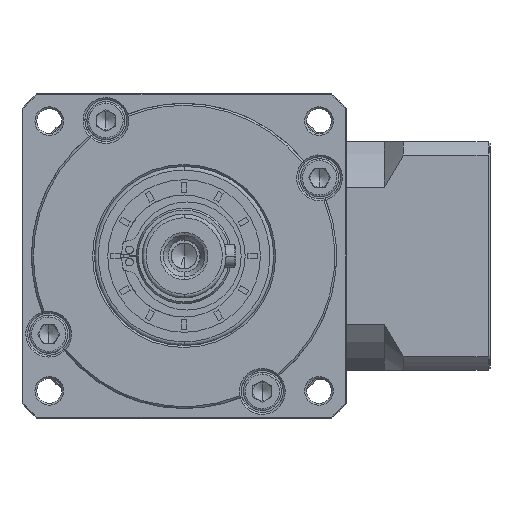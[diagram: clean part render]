
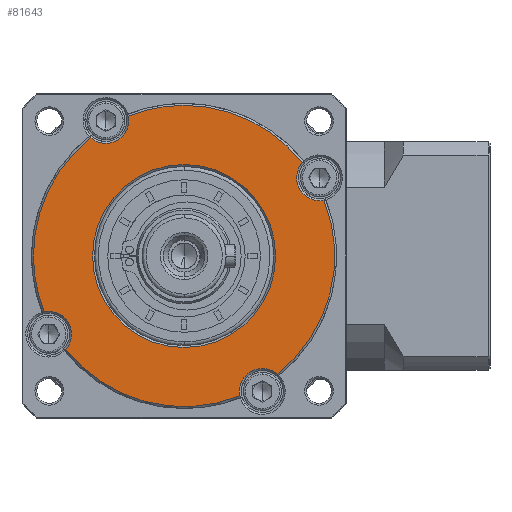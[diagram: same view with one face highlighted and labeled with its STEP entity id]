
A CAD part, left-side view. The second image highlights one B-rep face of the part: STEP entity #81643.
In plain terms, the highlighted planar face has unit normal (-1, 0, 0).
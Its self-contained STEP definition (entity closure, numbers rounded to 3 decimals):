
#1622 = ORIENTED_EDGE ( 'NONE', *, *, #16186, .T. ) ;
#1936 = EDGE_CURVE ( 'NONE', #135620, #119873, #136927, .T. ) ;
#3463 = CARTESIAN_POINT ( 'NONE',  ( -104.86, -5.555, -122.89 ) ) ;
#3695 = CIRCLE ( 'NONE', #173337, 24. ) ;
#3858 = AXIS2_PLACEMENT_3D ( 'NONE', #148018, #68094, #161396 ) ;
#4726 = CIRCLE ( 'NONE', #7853, 24. ) ;
#5567 = FACE_OUTER_BOUND ( 'NONE', #127482, .T. ) ;
#6462 = DIRECTION ( 'NONE',  ( 1., 0., 0. ) ) ;
#7062 = DIRECTION ( 'NONE',  ( 0., 0., -1. ) ) ;
#7853 = AXIS2_PLACEMENT_3D ( 'NONE', #63233, #156524, #76593 ) ;
#10627 = VERTEX_POINT ( 'NONE', #43774 ) ;
#12923 = DIRECTION ( 'NONE',  ( 0., 0., -1. ) ) ;
#15073 = VERTEX_POINT ( 'NONE', #122110 ) ;
#15132 = CIRCLE ( 'NONE', #157861, 39.5 ) ;
#16186 = EDGE_CURVE ( 'NONE', #140579, #125607, #76600, .T. ) ;
#16875 = DIRECTION ( 'NONE',  ( 0., 0., 1. ) ) ;
#18670 = VERTEX_POINT ( 'NONE', #166544 ) ;
#24618 = CARTESIAN_POINT ( 'NONE',  ( -104.86, -41.062, -108.39 ) ) ;
#26761 = ORIENTED_EDGE ( 'NONE', *, *, #69207, .F. ) ;
#30324 = ORIENTED_EDGE ( 'NONE', *, *, #85570, .F. ) ;
#31662 = AXIS2_PLACEMENT_3D ( 'NONE', #125056, #45001, #138546 ) ;
#32438 = ORIENTED_EDGE ( 'NONE', *, *, #168923, .F. ) ;
#35240 = VERTEX_POINT ( 'NONE', #83821 ) ;
#36890 = DIRECTION ( 'NONE',  ( 1., 0., 0. ) ) ;
#42344 = CARTESIAN_POINT ( 'NONE',  ( -104.86, -5.555, -122.89 ) ) ;
#43599 = EDGE_CURVE ( 'NONE', #150577, #18670, #52632, .T. ) ;
#43774 = CARTESIAN_POINT ( 'NONE',  ( -104.86, 33.945, -122.89 ) ) ;
#45001 = DIRECTION ( 'NONE',  ( 1., 0., 0. ) ) ;
#45139 = AXIS2_PLACEMENT_3D ( 'NONE', #42344, #135902, #119442 ) ;
#46078 = DIRECTION ( 'NONE',  ( 1., 0., 0. ) ) ;
#46151 = ORIENTED_EDGE ( 'NONE', *, *, #121931, .T. ) ;
#49233 = VERTEX_POINT ( 'NONE', #142100 ) ;
#49242 = CARTESIAN_POINT ( 'NONE',  ( -104.86, 14.945, -93.383 ) ) ;
#51792 = CARTESIAN_POINT ( 'NONE',  ( -104.86, 29.952, -143.39 ) ) ;
#52632 = CIRCLE ( 'NONE', #84363, 6. ) ;
#54839 = CARTESIAN_POINT ( 'NONE',  ( -104.86, 9.064, -86.194 ) ) ;
#55614 = VERTEX_POINT ( 'NONE', #104949 ) ;
#63233 = CARTESIAN_POINT ( 'NONE',  ( -104.86, -5.555, -122.89 ) ) ;
#64144 = CARTESIAN_POINT ( 'NONE',  ( -104.86, -42.25, -108.271 ) ) ;
#65342 = DIRECTION ( 'NONE',  ( 0., 0., -1. ) ) ;
#66439 = AXIS2_PLACEMENT_3D ( 'NONE', #69947, #163305, #83299 ) ;
#67940 = CARTESIAN_POINT ( 'NONE',  ( -104.86, -5.555, -122.89 ) ) ;
#68094 = DIRECTION ( 'NONE',  ( 1., 0., 0. ) ) ;
#68251 = EDGE_LOOP ( 'NONE', ( #150892, #164087 ) ) ;
#69207 = EDGE_CURVE ( 'NONE', #150577, #55614, #100407, .T. ) ;
#69947 = CARTESIAN_POINT ( 'NONE',  ( -104.86, -5.555, -122.89 ) ) ;
#71156 = CARTESIAN_POINT ( 'NONE',  ( -104.86, -26.055, -158.397 ) ) ;
#72570 = ORIENTED_EDGE ( 'NONE', *, *, #161223, .T. ) ;
#76268 = AXIS2_PLACEMENT_3D ( 'NONE', #116967, #36890, #130449 ) ;
#76593 = DIRECTION ( 'NONE',  ( 0., -1., 0. ) ) ;
#76600 = CIRCLE ( 'NONE', #135376, 6. ) ;
#76964 = CARTESIAN_POINT ( 'NONE',  ( -104.86, -5.555, -122.89 ) ) ;
#81261 = DIRECTION ( 'NONE',  ( 0., -1., 0. ) ) ;
#81419 = ORIENTED_EDGE ( 'NONE', *, *, #43599, .T. ) ;
#81643 = ADVANCED_FACE ( 'NONE', ( #5567, #143588 ), #161523, .T. ) ;
#83299 = DIRECTION ( 'NONE',  ( 0., 0., 1. ) ) ;
#83821 = CARTESIAN_POINT ( 'NONE',  ( -104.86, -5.555, -83.39 ) ) ;
#84363 = AXIS2_PLACEMENT_3D ( 'NONE', #71156, #164515, #84479 ) ;
#84479 = DIRECTION ( 'NONE',  ( 0., 0., -1. ) ) ;
#85570 = EDGE_CURVE ( 'NONE', #164460, #35240, #156766, .T. ) ;
#85651 = EDGE_CURVE ( 'NONE', #15073, #55614, #108754, .T. ) ;
#85666 = CARTESIAN_POINT ( 'NONE',  ( -104.86, 18.445, -122.89 ) ) ;
#86456 = CARTESIAN_POINT ( 'NONE',  ( -104.86, -5.555, -122.89 ) ) ;
#87083 = DIRECTION ( 'NONE',  ( 1., 0., 0. ) ) ;
#89226 = VERTEX_POINT ( 'NONE', #85666 ) ;
#90291 = DIRECTION ( 'NONE',  ( 0., 0., 1. ) ) ;
#90699 = AXIS2_PLACEMENT_3D ( 'NONE', #76964, #170426, #90291 ) ;
#92242 = CIRCLE ( 'NONE', #3858, 6. ) ;
#92920 = DIRECTION ( 'NONE',  ( 1., 0., 0. ) ) ;
#93210 = CIRCLE ( 'NONE', #145861, 6. ) ;
#96895 = DIRECTION ( 'NONE',  ( 1., 0., 0. ) ) ;
#99952 = DIRECTION ( 'NONE',  ( 0., 1., 0. ) ) ;
#100407 = CIRCLE ( 'NONE', #66439, 39.5 ) ;
#103090 = CARTESIAN_POINT ( 'NONE',  ( -104.86, 18.915, -91.882 ) ) ;
#104949 = CARTESIAN_POINT ( 'NONE',  ( -104.86, 25.453, -147.359 ) ) ;
#105020 = ORIENTED_EDGE ( 'NONE', *, *, #85651, .T. ) ;
#108754 = CIRCLE ( 'NONE', #162386, 6. ) ;
#109794 = AXIS2_PLACEMENT_3D ( 'NONE', #3463, #96895, #16875 ) ;
#110474 = CARTESIAN_POINT ( 'NONE',  ( -104.86, -29.555, -122.89 ) ) ;
#113914 = EDGE_CURVE ( 'NONE', #35240, #49233, #143841, .T. ) ;
#115266 = CIRCLE ( 'NONE', #31662, 39.5 ) ;
#115836 = ORIENTED_EDGE ( 'NONE', *, *, #133402, .F. ) ;
#116967 = CARTESIAN_POINT ( 'NONE',  ( -104.86, 14.945, -87.383 ) ) ;
#119442 = DIRECTION ( 'NONE',  ( 0., 0., -1. ) ) ;
#119873 = VERTEX_POINT ( 'NONE', #103090 ) ;
#121931 = EDGE_CURVE ( 'NONE', #125607, #49233, #92242, .T. ) ;
#122110 = CARTESIAN_POINT ( 'NONE',  ( -104.86, 31.14, -137.508 ) ) ;
#124083 = CIRCLE ( 'NONE', #149953, 39.5 ) ;
#125056 = CARTESIAN_POINT ( 'NONE',  ( -104.86, -5.555, -122.89 ) ) ;
#125607 = VERTEX_POINT ( 'NONE', #24618 ) ;
#126156 = CARTESIAN_POINT ( 'NONE',  ( -104.86, -5.555, -122.89 ) ) ;
#127482 = EDGE_LOOP ( 'NONE', ( #30324, #72570, #128755, #115836, #32438, #105020, #26761, #81419, #157195, #1622, #46151, #147276 ) ) ;
#128755 = ORIENTED_EDGE ( 'NONE', *, *, #1936, .T. ) ;
#130449 = DIRECTION ( 'NONE',  ( 0., 0., -1. ) ) ;
#132172 = EDGE_CURVE ( 'NONE', #89226, #168865, #3695, .T. ) ;
#133402 = EDGE_CURVE ( 'NONE', #10627, #119873, #124083, .T. ) ;
#135376 = AXIS2_PLACEMENT_3D ( 'NONE', #167188, #87083, #7062 ) ;
#135620 = VERTEX_POINT ( 'NONE', #49242 ) ;
#135902 = DIRECTION ( 'NONE',  ( -1., 0., 0. ) ) ;
#136927 = CIRCLE ( 'NONE', #76268, 6. ) ;
#137914 = CARTESIAN_POINT ( 'NONE',  ( -104.86, -20.174, -159.585 ) ) ;
#138546 = DIRECTION ( 'NONE',  ( 0., 1., 0. ) ) ;
#139613 = DIRECTION ( 'NONE',  ( 0., 0., 1. ) ) ;
#139988 = EDGE_CURVE ( 'NONE', #140579, #18670, #15132, .T. ) ;
#140579 = VERTEX_POINT ( 'NONE', #64144 ) ;
#142100 = CARTESIAN_POINT ( 'NONE',  ( -104.86, -36.563, -98.42 ) ) ;
#143588 = FACE_BOUND ( 'NONE', #68251, .T. ) ;
#143841 = CIRCLE ( 'NONE', #109794, 39.5 ) ;
#145280 = DIRECTION ( 'NONE',  ( 1., 0., 0. ) ) ;
#145861 = AXIS2_PLACEMENT_3D ( 'NONE', #173090, #92920, #12923 ) ;
#147276 = ORIENTED_EDGE ( 'NONE', *, *, #113914, .F. ) ;
#148018 = CARTESIAN_POINT ( 'NONE',  ( -104.86, -41.062, -102.39 ) ) ;
#149953 = AXIS2_PLACEMENT_3D ( 'NONE', #86456, #6462, #99952 ) ;
#150577 = VERTEX_POINT ( 'NONE', #137914 ) ;
#150892 = ORIENTED_EDGE ( 'NONE', *, *, #159679, .T. ) ;
#156524 = DIRECTION ( 'NONE',  ( 1., 0., 0. ) ) ;
#156766 = CIRCLE ( 'NONE', #90699, 39.5 ) ;
#157195 = ORIENTED_EDGE ( 'NONE', *, *, #139988, .F. ) ;
#157861 = AXIS2_PLACEMENT_3D ( 'NONE', #126156, #46078, #139613 ) ;
#159679 = EDGE_CURVE ( 'NONE', #168865, #89226, #4726, .T. ) ;
#161223 = EDGE_CURVE ( 'NONE', #164460, #135620, #93210, .T. ) ;
#161237 = DIRECTION ( 'NONE',  ( 1., 0., 0. ) ) ;
#161396 = DIRECTION ( 'NONE',  ( 0., 0., -1. ) ) ;
#161523 = PLANE ( 'NONE',  #45139 ) ;
#162386 = AXIS2_PLACEMENT_3D ( 'NONE', #51792, #145280, #65342 ) ;
#163305 = DIRECTION ( 'NONE',  ( 1., 0., 0. ) ) ;
#164087 = ORIENTED_EDGE ( 'NONE', *, *, #132172, .T. ) ;
#164460 = VERTEX_POINT ( 'NONE', #54839 ) ;
#164515 = DIRECTION ( 'NONE',  ( 1., 0., 0. ) ) ;
#166544 = CARTESIAN_POINT ( 'NONE',  ( -104.86, -30.024, -153.897 ) ) ;
#167188 = CARTESIAN_POINT ( 'NONE',  ( -104.86, -41.062, -102.39 ) ) ;
#168865 = VERTEX_POINT ( 'NONE', #110474 ) ;
#168923 = EDGE_CURVE ( 'NONE', #15073, #10627, #115266, .T. ) ;
#170426 = DIRECTION ( 'NONE',  ( 1., 0., 0. ) ) ;
#173090 = CARTESIAN_POINT ( 'NONE',  ( -104.86, 14.945, -87.383 ) ) ;
#173337 = AXIS2_PLACEMENT_3D ( 'NONE', #67940, #161237, #81261 ) ;
